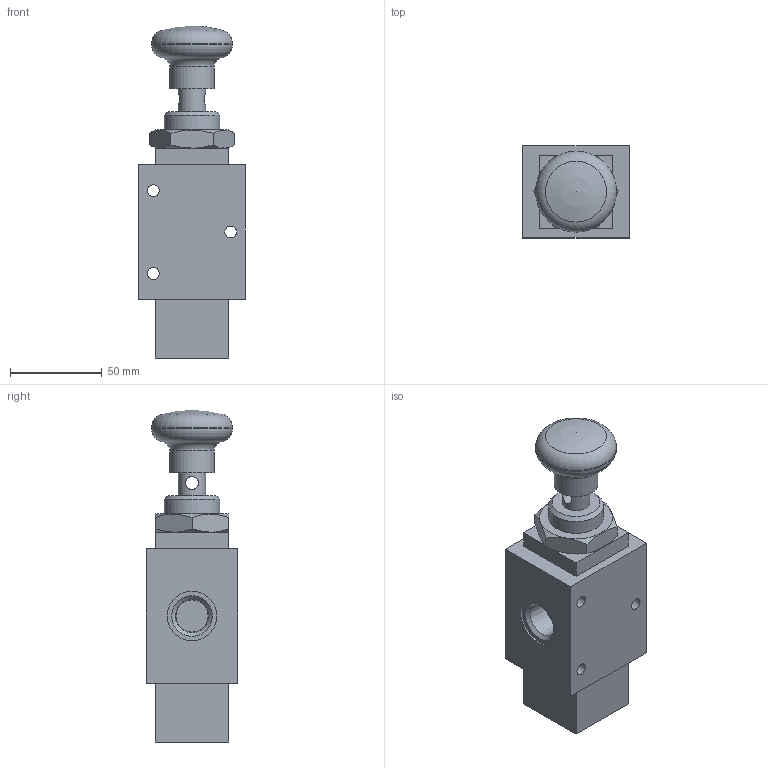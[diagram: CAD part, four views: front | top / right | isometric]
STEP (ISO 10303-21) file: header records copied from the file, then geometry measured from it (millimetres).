
FILE_DESCRIPTION(/* description */ (''),/* implementation_level */ '2;1');
FILE_NAME(/* name */ 'I:\Area Tecnica\Progetti\P118 (OIL&GAS)\DOCUMENTAZIONE\CATALOGO\VALVOLE INOX\LIBRERIA - SS VALV INOX\VALV SS12 NPT\SS1232#####\SS1232C0801#.stp',/* time_stamp */ '2016-06-14T08:10:16+02:00',/* author */ ('Maniean1'),/* organization */ ('Pneumax S.p.A.'),/* preprocessor_version */ 'ST-DEVELOPER v15.2',/* originating_system */ 'Autodesk Inventor 2014',/* authorisation */ '');
FILE_SCHEMA (('AUTOMOTIVE_DESIGN { 1 0 10303 214 3 1 1 }'));
Length unit declared in the file: millimetre
Products named in the file (3): SS1232C0801#-; DADO-; SS1232C0801#
Bounding box: 58 x 50 x 180.5 mm (x, y, z)
Volume: 311010.1 mm3; surface area: 44717.4 mm2
Topology: 2 solids, 2 shells, 62 faces, 138 edges, 90 vertices
Faces by surface type: plane 32, cylinder 15, cone 11, torus 3, sphere 1
Full cylindrical faces by diameter (mm): 6.5 x3, 7 x1, 14.9 x1, 17.475 x3, 24 x1, 27 x3, 28.376 x1, 30 x1, 44 x1
Entity records: 1608 total; most frequent: CARTESIAN_POINT 333, DIRECTION 258, ORIENTED_EDGE 194, EDGE_LOOP 112, AXIS2_PLACEMENT_3D 108, EDGE_CURVE 97, VERTEX_POINT 79, FACE_BOUND 64
